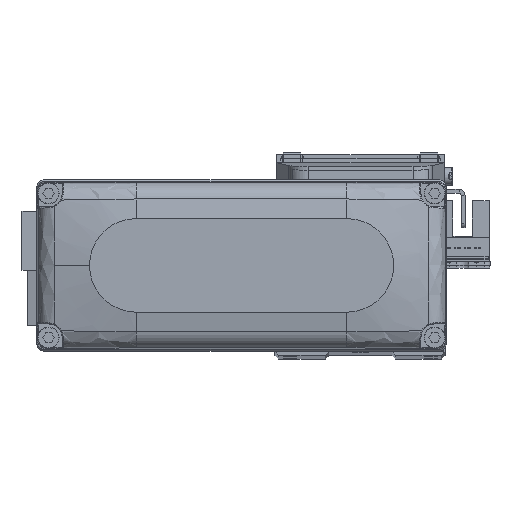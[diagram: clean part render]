
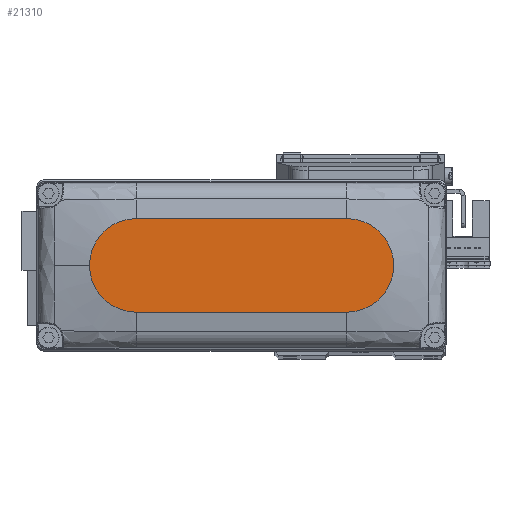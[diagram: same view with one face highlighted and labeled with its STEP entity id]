
A CAD part, top view. The second image highlights one B-rep face of the part: STEP entity #21310.
In plain terms, the highlighted planar face has unit normal (0, 0, 1).
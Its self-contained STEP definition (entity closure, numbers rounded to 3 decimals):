
#925 = CARTESIAN_POINT ( 'NONE',  ( -27., 0., 25. ) ) ;
#1184 = CARTESIAN_POINT ( 'NONE',  ( -27., 12., 25. ) ) ;
#1484 = CARTESIAN_POINT ( 'NONE',  ( 0., 0., 25. ) ) ;
#3478 = CARTESIAN_POINT ( 'NONE',  ( 27., 0., 25. ) ) ;
#4501 = CIRCLE ( 'NONE', #26966, 12. ) ;
#5895 = CARTESIAN_POINT ( 'NONE',  ( 39., 0., 25. ) ) ;
#6834 = AXIS2_PLACEMENT_3D ( 'NONE', #3478, #15758, #27986 ) ;
#7181 = CARTESIAN_POINT ( 'NONE',  ( -27., -12., 25. ) ) ;
#7285 = ORIENTED_EDGE ( 'NONE', *, *, #31897, .T. ) ;
#7590 = VECTOR ( 'NONE', #7877, 1000. ) ;
#7877 = DIRECTION ( 'NONE',  ( 1., 0., 0. ) ) ;
#8193 = ORIENTED_EDGE ( 'NONE', *, *, #12105, .T. ) ;
#8698 = AXIS2_PLACEMENT_3D ( 'NONE', #1484, #13763, #26003 ) ;
#8765 = EDGE_CURVE ( 'NONE', #30400, #25081, #35449, .T. ) ;
#9339 = ORIENTED_EDGE ( 'NONE', *, *, #10160, .T. ) ;
#10160 = EDGE_CURVE ( 'NONE', #11194, #30400, #28703, .T. ) ;
#10304 = CARTESIAN_POINT ( 'NONE',  ( 27., -12., 25. ) ) ;
#10337 = DIRECTION ( 'NONE',  ( 0., 0., 1. ) ) ;
#10796 = VERTEX_POINT ( 'NONE', #5895 ) ;
#10999 = VERTEX_POINT ( 'NONE', #10304 ) ;
#11194 = VERTEX_POINT ( 'NONE', #35966 ) ;
#12105 = EDGE_CURVE ( 'NONE', #10796, #11194, #24155, .T. ) ;
#13197 = DIRECTION ( 'NONE',  ( 0., 0., 1. ) ) ;
#13461 = DIRECTION ( 'NONE',  ( -1., 0., 0. ) ) ;
#13763 = DIRECTION ( 'NONE',  ( 0., 0., 1. ) ) ;
#15758 = DIRECTION ( 'NONE',  ( 0., 0., 1. ) ) ;
#16796 = FACE_OUTER_BOUND ( 'NONE', #25845, .T. ) ;
#18186 = AXIS2_PLACEMENT_3D ( 'NONE', #925, #13197, #25445 ) ;
#19547 = VECTOR ( 'NONE', #13461, 1000. ) ;
#21310 = ADVANCED_FACE ( 'NONE', ( #16796 ), #29021, .T. ) ;
#22591 = DIRECTION ( 'NONE',  ( 1., 0., 0. ) ) ;
#23089 = CARTESIAN_POINT ( 'NONE',  ( -27., 12., 25. ) ) ;
#23145 = LINE ( 'NONE', #35379, #7590 ) ;
#24155 = CIRCLE ( 'NONE', #6834, 12. ) ;
#25081 = VERTEX_POINT ( 'NONE', #7181 ) ;
#25445 = DIRECTION ( 'NONE',  ( 1., 0., 0. ) ) ;
#25845 = EDGE_LOOP ( 'NONE', ( #9339, #29401, #7285, #38453, #8193 ) ) ;
#26003 = DIRECTION ( 'NONE',  ( 1., 0., 0. ) ) ;
#26966 = AXIS2_PLACEMENT_3D ( 'NONE', #37831, #10337, #22591 ) ;
#27986 = DIRECTION ( 'NONE',  ( 1., 0., 0. ) ) ;
#28170 = EDGE_CURVE ( 'NONE', #10999, #10796, #4501, .T. ) ;
#28703 = LINE ( 'NONE', #1184, #19547 ) ;
#29021 = PLANE ( 'NONE',  #8698 ) ;
#29401 = ORIENTED_EDGE ( 'NONE', *, *, #8765, .T. ) ;
#30400 = VERTEX_POINT ( 'NONE', #23089 ) ;
#31897 = EDGE_CURVE ( 'NONE', #25081, #10999, #23145, .T. ) ;
#35379 = CARTESIAN_POINT ( 'NONE',  ( -27., -12., 25. ) ) ;
#35449 = CIRCLE ( 'NONE', #18186, 12. ) ;
#35966 = CARTESIAN_POINT ( 'NONE',  ( 27., 12., 25. ) ) ;
#37831 = CARTESIAN_POINT ( 'NONE',  ( 27., 0., 25. ) ) ;
#38453 = ORIENTED_EDGE ( 'NONE', *, *, #28170, .T. ) ;
